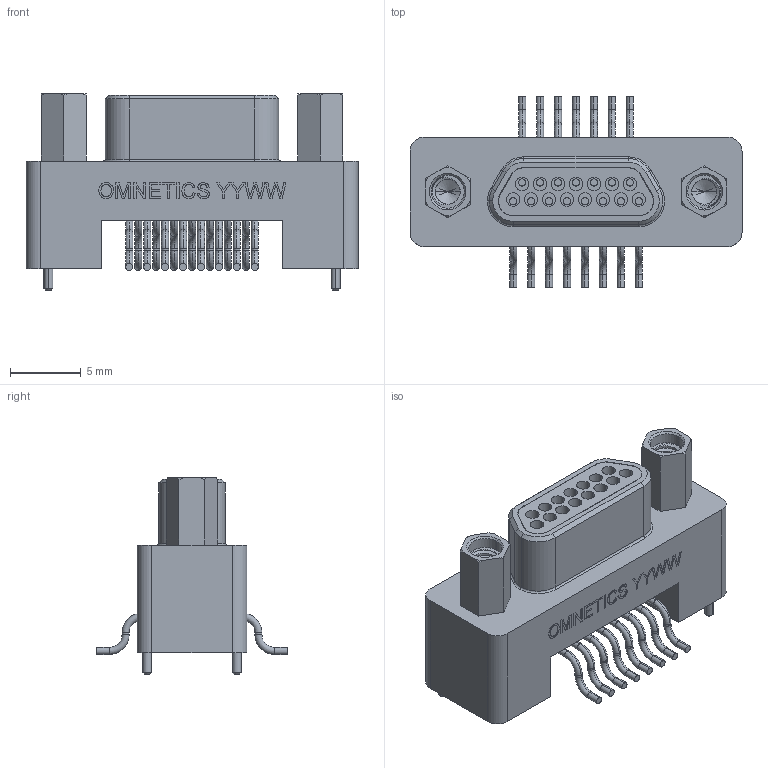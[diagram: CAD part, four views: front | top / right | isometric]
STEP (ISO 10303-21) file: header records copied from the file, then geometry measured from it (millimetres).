
FILE_DESCRIPTION (( 'STEP AP214' ), '1' );
FILE_NAME ('A98701-015 REV A.STEP', '2019-08-15T17:44:37', ( '' ), ( '' ), 'SwSTEP 2.0', 'SolidWorks 2019', '' );
FILE_SCHEMA (( 'AUTOMOTIVE_DESIGN' ));
Length unit declared in the file: inch
Products named in the file (1): A98701-015 REV A
Bounding box: 23.5 x 13.51 x 13.91 mm (x, y, z)
Volume: 1165.5 mm3; surface area: 2345 mm2
Topology: 1 solids, 6 shells, 909 faces, 2169 edges, 1355 vertices
Faces by surface type: cylinder 379, plane 256, cone 105, torus 95, bspline 74
Entity records: 48208 total; most frequent: CARTESIAN_POINT 16158, ORIENTED_EDGE 4318, DIRECTION 4066, EDGE_CURVE 2159, AXIS2_PLACEMENT_3D 1569, VERTEX_POINT 1355, EDGE_LOOP 1006, VECTOR 928
